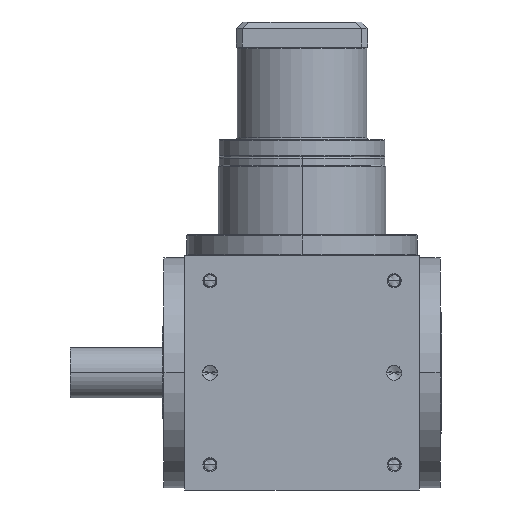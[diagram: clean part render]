
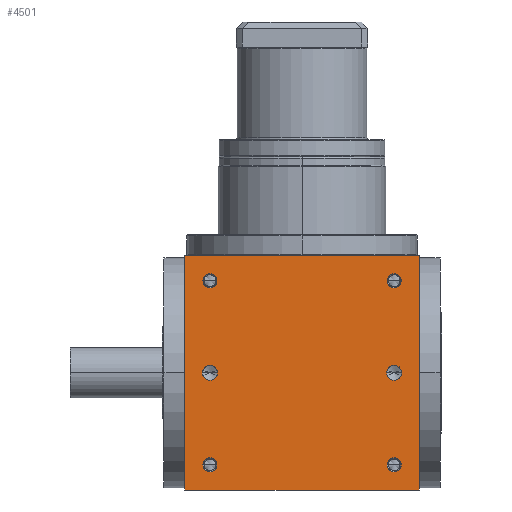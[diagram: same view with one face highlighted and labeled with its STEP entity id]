
A CAD part, front view. The second image highlights one B-rep face of the part: STEP entity #4501.
In plain terms, the highlighted planar face has unit normal (0, -1, 0).
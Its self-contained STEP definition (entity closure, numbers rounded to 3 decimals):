
#5=DIRECTION('',(1.,0.,0.));
#6=VECTOR('',#5,280.);
#7=CARTESIAN_POINT('',(-140.,-140.,-140.));
#8=LINE('',#7,#6);
#155=DIRECTION('',(0.,0.,1.));
#156=VECTOR('',#155,280.);
#157=CARTESIAN_POINT('',(140.,-140.,-140.));
#158=LINE('',#157,#156);
#209=DIRECTION('',(0.,0.,1.));
#210=VECTOR('',#209,280.);
#211=CARTESIAN_POINT('',(-140.,-140.,-140.));
#212=LINE('',#211,#210);
#213=CARTESIAN_POINT('',(110.,-139.999,110.));
#214=DIRECTION('',(0.,1.,0.));
#215=DIRECTION('',(-1.,0.,0.));
#216=AXIS2_PLACEMENT_3D('',#213,#214,#215);
#218=CARTESIAN_POINT('',(110.,-139.999,110.));
#219=DIRECTION('',(0.,1.,0.));
#220=DIRECTION('',(1.,0.,0.));
#221=AXIS2_PLACEMENT_3D('',#218,#219,#220);
#223=CARTESIAN_POINT('',(-110.,-139.999,110.));
#224=DIRECTION('',(0.,1.,0.));
#225=DIRECTION('',(-1.,0.,0.));
#226=AXIS2_PLACEMENT_3D('',#223,#224,#225);
#228=CARTESIAN_POINT('',(-110.,-139.999,110.));
#229=DIRECTION('',(0.,1.,0.));
#230=DIRECTION('',(1.,0.,0.));
#231=AXIS2_PLACEMENT_3D('',#228,#229,#230);
#233=CARTESIAN_POINT('',(110.,-139.999,-110.));
#234=DIRECTION('',(0.,1.,0.));
#235=DIRECTION('',(-1.,0.,0.));
#236=AXIS2_PLACEMENT_3D('',#233,#234,#235);
#238=CARTESIAN_POINT('',(110.,-139.999,-110.));
#239=DIRECTION('',(0.,1.,0.));
#240=DIRECTION('',(1.,0.,0.));
#241=AXIS2_PLACEMENT_3D('',#238,#239,#240);
#243=CARTESIAN_POINT('',(-110.,-139.999,-110.));
#244=DIRECTION('',(0.,1.,0.));
#245=DIRECTION('',(-1.,0.,0.));
#246=AXIS2_PLACEMENT_3D('',#243,#244,#245);
#248=CARTESIAN_POINT('',(-110.,-139.999,-110.));
#249=DIRECTION('',(0.,1.,0.));
#250=DIRECTION('',(1.,0.,0.));
#251=AXIS2_PLACEMENT_3D('',#248,#249,#250);
#253=CARTESIAN_POINT('',(-110.,-140.,0.));
#254=DIRECTION('',(0.,1.,0.));
#255=DIRECTION('',(1.,0.,0.));
#256=AXIS2_PLACEMENT_3D('',#253,#254,#255);
#258=CARTESIAN_POINT('',(-110.,-140.,0.));
#259=DIRECTION('',(0.,1.,0.));
#260=DIRECTION('',(-1.,0.,0.));
#261=AXIS2_PLACEMENT_3D('',#258,#259,#260);
#263=CARTESIAN_POINT('',(110.,-140.,0.));
#264=DIRECTION('',(0.,1.,0.));
#265=DIRECTION('',(1.,0.,0.));
#266=AXIS2_PLACEMENT_3D('',#263,#264,#265);
#268=CARTESIAN_POINT('',(110.,-140.,0.));
#269=DIRECTION('',(0.,1.,0.));
#270=DIRECTION('',(-1.,0.,0.));
#271=AXIS2_PLACEMENT_3D('',#268,#269,#270);
#285=DIRECTION('',(1.,0.,0.));
#286=VECTOR('',#285,280.);
#287=CARTESIAN_POINT('',(-140.,-140.,140.));
#288=LINE('',#287,#286);
#3602=CARTESIAN_POINT('',(-140.,-140.,-140.));
#3604=VERTEX_POINT('',#3602);
#3605=CARTESIAN_POINT('',(140.,-140.,-140.));
#3606=VERTEX_POINT('',#3605);
#3610=CARTESIAN_POINT('',(-140.,-140.,140.));
#3612=VERTEX_POINT('',#3610);
#3613=CARTESIAN_POINT('',(140.,-140.,140.));
#3614=VERTEX_POINT('',#3613);
#3781=CARTESIAN_POINT('',(101.6,-139.999,110.));
#3782=CARTESIAN_POINT('',(118.4,-139.999,110.));
#3783=VERTEX_POINT('',#3781);
#3784=VERTEX_POINT('',#3782);
#3789=CARTESIAN_POINT('',(-118.4,-139.999,110.));
#3790=CARTESIAN_POINT('',(-101.6,-139.999,110.));
#3791=VERTEX_POINT('',#3789);
#3792=VERTEX_POINT('',#3790);
#3797=CARTESIAN_POINT('',(101.6,-139.999,-110.));
#3798=CARTESIAN_POINT('',(118.4,-139.999,-110.));
#3799=VERTEX_POINT('',#3797);
#3800=VERTEX_POINT('',#3798);
#3805=CARTESIAN_POINT('',(-118.4,-139.999,-110.));
#3806=CARTESIAN_POINT('',(-101.6,-139.999,-110.));
#3807=VERTEX_POINT('',#3805);
#3808=VERTEX_POINT('',#3806);
#4147=CARTESIAN_POINT('',(-100.95,-140.,0.));
#4148=CARTESIAN_POINT('',(-119.05,-140.,
0.));
#4149=VERTEX_POINT('',#4147);
#4150=VERTEX_POINT('',#4148);
#4155=CARTESIAN_POINT('',(119.05,-140.,0.));
#4156=CARTESIAN_POINT('',(100.95,-140.,0.));
#4157=VERTEX_POINT('',#4155);
#4158=VERTEX_POINT('',#4156);
#4453=CARTESIAN_POINT('',(-140.,-140.,-140.));
#4454=DIRECTION('',(0.,-1.,0.));
#4455=DIRECTION('',(1.,0.,0.));
#4456=AXIS2_PLACEMENT_3D('',#4453,#4454,#4455);
#4457=PLANE('',#4456);
#4458=ORIENTED_EDGE('',*,*,#4293,.F.);
#4459=ORIENTED_EDGE('',*,*,#4336,.T.);
#4461=ORIENTED_EDGE('',*,*,#4460,.T.);
#4462=ORIENTED_EDGE('',*,*,#4415,.F.);
#4463=EDGE_LOOP('',(#4458,#4459,#4461,#4462));
#4464=FACE_OUTER_BOUND('',#4463,.F.);
#4466=ORIENTED_EDGE('',*,*,#4465,.F.);
#4468=ORIENTED_EDGE('',*,*,#4467,.F.);
#4469=EDGE_LOOP('',(#4466,#4468));
#4470=FACE_BOUND('',#4469,.F.);
#4472=ORIENTED_EDGE('',*,*,#4471,.F.);
#4474=ORIENTED_EDGE('',*,*,#4473,.F.);
#4475=EDGE_LOOP('',(#4472,#4474));
#4476=FACE_BOUND('',#4475,.F.);
#4478=ORIENTED_EDGE('',*,*,#4477,.F.);
#4480=ORIENTED_EDGE('',*,*,#4479,.F.);
#4481=EDGE_LOOP('',(#4478,#4480));
#4482=FACE_BOUND('',#4481,.F.);
#4484=ORIENTED_EDGE('',*,*,#4483,.F.);
#4486=ORIENTED_EDGE('',*,*,#4485,.F.);
#4487=EDGE_LOOP('',(#4484,#4486));
#4488=FACE_BOUND('',#4487,.F.);
#4490=ORIENTED_EDGE('',*,*,#4489,.F.);
#4492=ORIENTED_EDGE('',*,*,#4491,.F.);
#4493=EDGE_LOOP('',(#4490,#4492));
#4494=FACE_BOUND('',#4493,.F.);
#4496=ORIENTED_EDGE('',*,*,#4495,.F.);
#4498=ORIENTED_EDGE('',*,*,#4497,.F.);
#4499=EDGE_LOOP('',(#4496,#4498));
#4500=FACE_BOUND('',#4499,.F.);
#4501=ADVANCED_FACE('',(#4464,#4470,#4476,#4482,#4488,#4494,#4500),#4457,.T.);
#217=CIRCLE('',#216,8.4);
#222=CIRCLE('',#221,8.4);
#227=CIRCLE('',#226,8.4);
#232=CIRCLE('',#231,8.4);
#237=CIRCLE('',#236,8.4);
#242=CIRCLE('',#241,8.4);
#247=CIRCLE('',#246,8.4);
#252=CIRCLE('',#251,8.4);
#257=CIRCLE('',#256,9.05);
#262=CIRCLE('',#261,9.05);
#267=CIRCLE('',#266,9.05);
#272=CIRCLE('',#271,9.05);
#4293=EDGE_CURVE('',#3604,#3606,#8,.T.);
#4336=EDGE_CURVE('',#3604,#3612,#212,.T.);
#4415=EDGE_CURVE('',#3606,#3614,#158,.T.);
#4460=EDGE_CURVE('',#3612,#3614,#288,.T.);
#4465=EDGE_CURVE('',#3783,#3784,#217,.T.);
#4467=EDGE_CURVE('',#3784,#3783,#222,.T.);
#4471=EDGE_CURVE('',#3791,#3792,#227,.T.);
#4473=EDGE_CURVE('',#3792,#3791,#232,.T.);
#4477=EDGE_CURVE('',#3799,#3800,#237,.T.);
#4479=EDGE_CURVE('',#3800,#3799,#242,.T.);
#4483=EDGE_CURVE('',#3807,#3808,#247,.T.);
#4485=EDGE_CURVE('',#3808,#3807,#252,.T.);
#4489=EDGE_CURVE('',#4149,#4150,#257,.T.);
#4491=EDGE_CURVE('',#4150,#4149,#262,.T.);
#4495=EDGE_CURVE('',#4157,#4158,#267,.T.);
#4497=EDGE_CURVE('',#4158,#4157,#272,.T.);
